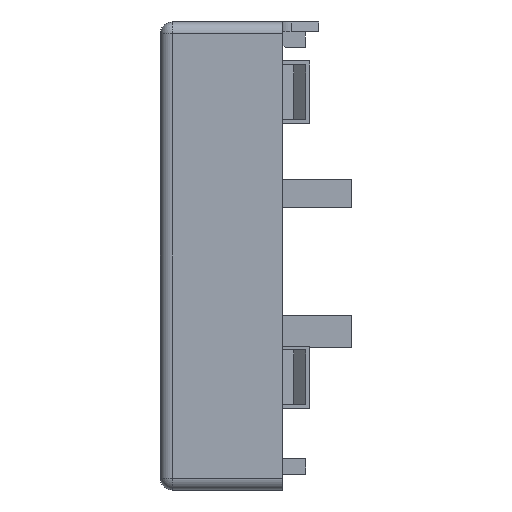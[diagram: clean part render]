
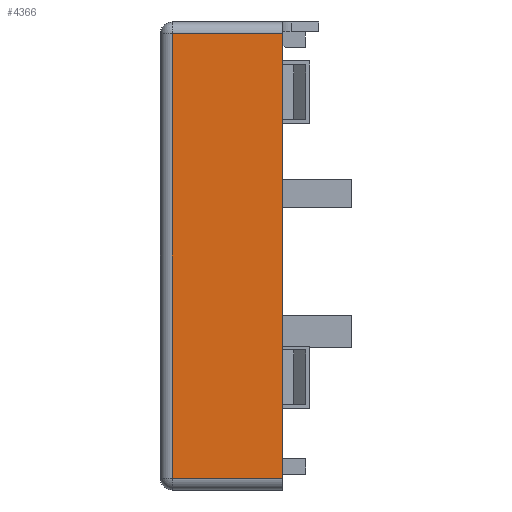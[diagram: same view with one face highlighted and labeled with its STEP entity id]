
A CAD part, left-side view. The second image highlights one B-rep face of the part: STEP entity #4366.
In plain terms, the highlighted planar face has unit normal (-1, 0, 0).
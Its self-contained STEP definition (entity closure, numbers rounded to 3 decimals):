
#401=FACE_OUTER_BOUND('',#661,.T.);
#661=EDGE_LOOP('',(#3718,#3719,#3720,#3721));
#1070=LINE('',#7293,#1544);
#1074=LINE('',#7304,#1548);
#1075=LINE('',#7309,#1549);
#1076=LINE('',#7311,#1550);
#1544=VECTOR('',#5283,10.);
#1548=VECTOR('',#5295,10.);
#1549=VECTOR('',#5302,10.);
#1550=VECTOR('',#5305,10.);
#2080=VERTEX_POINT('',#7290);
#2081=VERTEX_POINT('',#7292);
#2084=VERTEX_POINT('',#7302);
#2085=VERTEX_POINT('',#7307);
#2644=EDGE_CURVE('',#2080,#2081,#1070,.T.);
#2650=EDGE_CURVE('',#2084,#2080,#1074,.T.);
#2653=EDGE_CURVE('',#2085,#2084,#1075,.T.);
#2654=EDGE_CURVE('',#2081,#2085,#1076,.T.);
#3718=ORIENTED_EDGE('',*,*,#2650,.F.);
#3719=ORIENTED_EDGE('',*,*,#2653,.F.);
#3720=ORIENTED_EDGE('',*,*,#2654,.F.);
#3721=ORIENTED_EDGE('',*,*,#2644,.F.);
#4150=PLANE('',#4592);
#4366=ADVANCED_FACE('',(#401),#4150,.T.);
#4592=AXIS2_PLACEMENT_3D('',#7316,#5314,#5315);
#5283=DIRECTION('',(0.,0.,-1.));
#5295=DIRECTION('',(0.,-1.,0.));
#5302=DIRECTION('',(0.,0.,1.));
#5305=DIRECTION('',(0.,1.,0.));
#5314=DIRECTION('center_axis',(-1.,0.,0.));
#5315=DIRECTION('ref_axis',(0.,0.,1.));
#7290=CARTESIAN_POINT('',(-115.7,7.284,135.95));
#7292=CARTESIAN_POINT('',(-115.7,7.284,79.3));
#7293=CARTESIAN_POINT('',(-115.7,7.284,92.747));
#7302=CARTESIAN_POINT('',(-115.7,21.31,135.95));
#7304=CARTESIAN_POINT('',(-115.7,4.355,135.95));
#7307=CARTESIAN_POINT('',(-115.7,21.31,79.3));
#7309=CARTESIAN_POINT('',(-115.7,21.31,92.713));
#7311=CARTESIAN_POINT('',(-115.7,-6.,79.3));
#7316=CARTESIAN_POINT('Origin',(-115.7,-6.,77.8));
